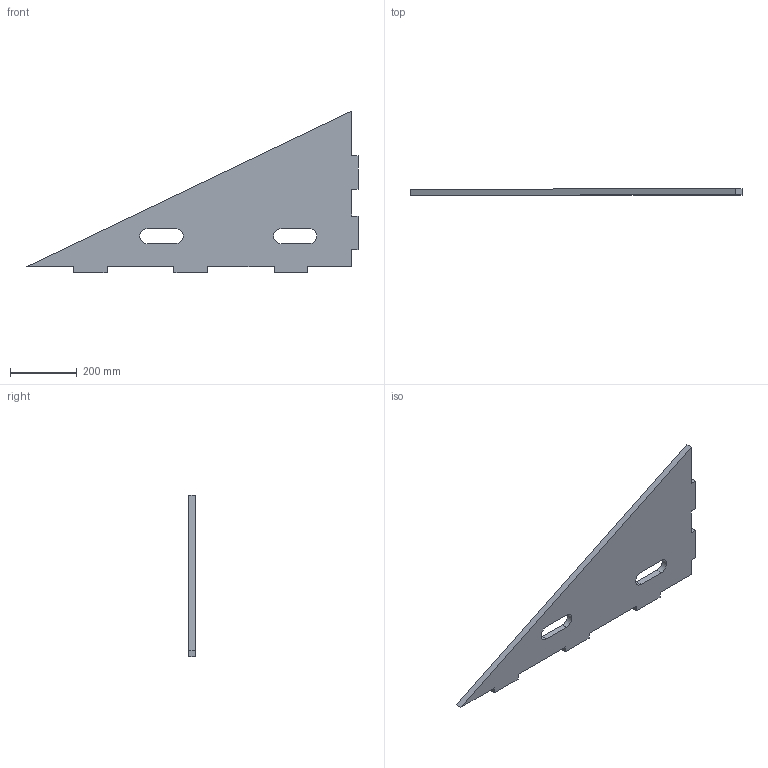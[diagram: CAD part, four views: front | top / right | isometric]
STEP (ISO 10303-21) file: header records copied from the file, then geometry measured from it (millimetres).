
FILE_DESCRIPTION(('Open CASCADE Model'),'2;1');
FILE_NAME('Open CASCADE Shape Model','2026-09-27T16:12:29',('Author'),( 'Open CASCADE'),'Open CASCADE STEP processor 7.9','Open CASCADE 7.9' ,'Unknown');
FILE_SCHEMA(('AUTOMOTIVE_DESIGN { 1 0 10303 214 1 1 1 1 }'));
Length unit declared in the file: millimetre
Products named in the file (1): Open CASCADE STEP translator 7.9 1
Bounding box: 992.24 x 18 x 483.76 mm (x, y, z)
Volume: 4050890.6 mm3; surface area: 509905.5 mm2
Topology: 1 solids, 1 shells, 33 faces, 93 edges, 62 vertices
Faces by surface type: plane 29, cylinder 4
Entity records: 2286 total; most frequent: CARTESIAN_POINT 443, DIRECTION 327, LINE 243, VECTOR 243, ORIENTED_EDGE 186, PCURVE 186, DEFINITIONAL_REPRESENTATION 186, EDGE_CURVE 93
